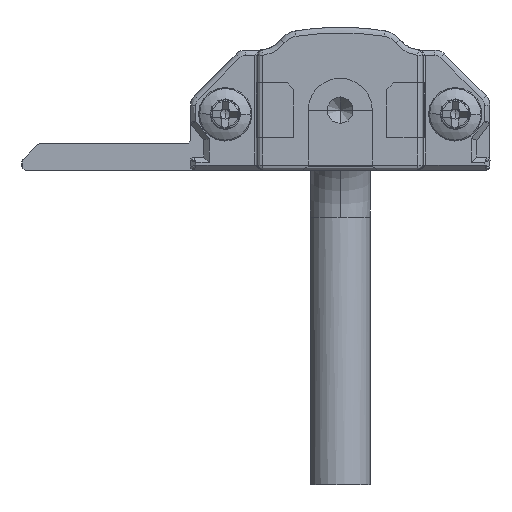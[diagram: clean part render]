
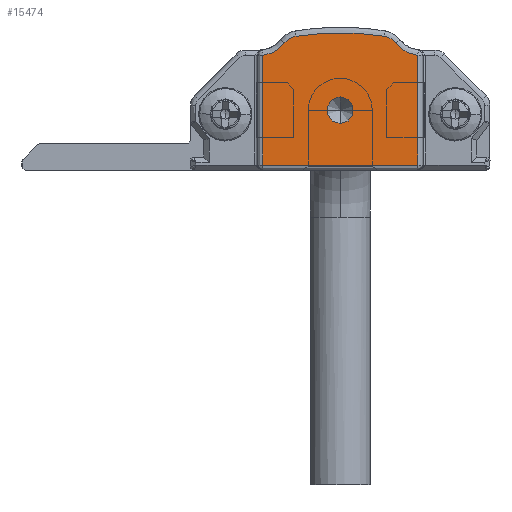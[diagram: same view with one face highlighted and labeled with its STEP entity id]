
A CAD part, front view. The second image highlights one B-rep face of the part: STEP entity #15474.
In plain terms, the highlighted planar face has unit normal (0, -1, 0).
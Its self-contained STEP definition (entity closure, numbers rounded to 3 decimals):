
#671 = CARTESIAN_POINT ( 'NONE',  ( 5.4, -15., 0.4 ) ) ;
#904 = AXIS2_PLACEMENT_3D ( 'NONE', #21666, #19775, #14298 ) ;
#1023 = CARTESIAN_POINT ( 'NONE',  ( 7.892, -15., 10.034 ) ) ;
#1240 = ORIENTED_EDGE ( 'NONE', *, *, #8423, .T. ) ;
#1302 = CARTESIAN_POINT ( 'NONE',  ( 5.162, -15., 11. ) ) ;
#1986 = DIRECTION ( 'NONE',  ( 0., 0., -1. ) ) ;
#3333 = VERTEX_POINT ( 'NONE', #29406 ) ;
#3866 = AXIS2_PLACEMENT_3D ( 'NONE', #17129, #24100, #21903 ) ;
#3964 = CIRCLE ( 'NONE', #19849, 1.3 ) ;
#4020 = DIRECTION ( 'NONE',  ( 0., 0., -1. ) ) ;
#4179 = DIRECTION ( 'NONE',  ( 1., 0., 0. ) ) ;
#4216 = DIRECTION ( 'NONE',  ( 0., 0., 1. ) ) ;
#4386 = DIRECTION ( 'NONE',  ( 0., -1., 0. ) ) ;
#5289 = AXIS2_PLACEMENT_3D ( 'NONE', #13988, #4386, #1986 ) ;
#5530 = EDGE_LOOP ( 'NONE', ( #16697, #29264 ) ) ;
#5891 = CIRCLE ( 'NONE', #3866, 1. ) ;
#6632 = CIRCLE ( 'NONE', #27974, 2.4 ) ;
#6764 = DIRECTION ( 'NONE',  ( 0., -1., 0. ) ) ;
#6928 = CARTESIAN_POINT ( 'NONE',  ( 8.1, -15., 8.75 ) ) ;
#7044 = VERTEX_POINT ( 'NONE', #10457 ) ;
#7438 = DIRECTION ( 'NONE',  ( 0., -1., 0. ) ) ;
#8221 = AXIS2_PLACEMENT_3D ( 'NONE', #12626, #12457, #24899 ) ;
#8423 = EDGE_CURVE ( 'NONE', #22738, #3333, #3964, .T. ) ;
#8481 = ORIENTED_EDGE ( 'NONE', *, *, #21307, .T. ) ;
#8854 = LINE ( 'NONE', #18173, #18577 ) ;
#10433 = VERTEX_POINT ( 'NONE', #26741 ) ;
#10457 = CARTESIAN_POINT ( 'NONE',  ( 15.332, -15., 9.541 ) ) ;
#10771 = EDGE_CURVE ( 'NONE', #10433, #17714, #8854, .T. ) ;
#10775 = EDGE_LOOP ( 'NONE', ( #19307, #15958, #24041, #26662, #1240, #28077, #14694, #8481 ) ) ;
#11020 = VERTEX_POINT ( 'NONE', #671 ) ;
#11438 = VECTOR ( 'NONE', #4179, 1000. ) ;
#11857 = CARTESIAN_POINT ( 'NONE',  ( 17., -15., 0.4 ) ) ;
#12063 = EDGE_CURVE ( 'NONE', #29003, #12157, #5891, .T. ) ;
#12157 = VERTEX_POINT ( 'NONE', #24745 ) ;
#12457 = DIRECTION ( 'NONE',  ( 0., -1., 0. ) ) ;
#12626 = CARTESIAN_POINT ( 'NONE',  ( 22.15, -15., 3.606 ) ) ;
#13792 = DIRECTION ( 'NONE',  ( 0., 1., 0. ) ) ;
#13988 = CARTESIAN_POINT ( 'NONE',  ( 11.2, -15., 4.5 ) ) ;
#14105 = VERTEX_POINT ( 'NONE', #24261 ) ;
#14298 = DIRECTION ( 'NONE',  ( 0., 0., -1. ) ) ;
#14684 = EDGE_CURVE ( 'NONE', #12157, #29003, #20642, .T. ) ;
#14694 = ORIENTED_EDGE ( 'NONE', *, *, #18235, .T. ) ;
#14854 = FACE_OUTER_BOUND ( 'NONE', #10775, .T. ) ;
#15474 = ADVANCED_FACE ( 'NONE', ( #14854, #19693 ), #29821, .T. ) ;
#15636 = EDGE_CURVE ( 'NONE', #7044, #18415, #20857, .T. ) ;
#15958 = ORIENTED_EDGE ( 'NONE', *, *, #18374, .T. ) ;
#16697 = ORIENTED_EDGE ( 'NONE', *, *, #14684, .F. ) ;
#17129 = CARTESIAN_POINT ( 'NONE',  ( 11.2, -15., 4.5 ) ) ;
#17421 = CIRCLE ( 'NONE', #25506, 20.676 ) ;
#17714 = VERTEX_POINT ( 'NONE', #30109 ) ;
#18173 = CARTESIAN_POINT ( 'NONE',  ( 17., -15., 8.612 ) ) ;
#18235 = EDGE_CURVE ( 'NONE', #14105, #11020, #26807, .T. ) ;
#18374 = EDGE_CURVE ( 'NONE', #17714, #7044, #6632, .T. ) ;
#18415 = VERTEX_POINT ( 'NONE', #30112 ) ;
#18536 = DIRECTION ( 'NONE',  ( 0., 0., -1. ) ) ;
#18577 = VECTOR ( 'NONE', #4216, 1000. ) ;
#19307 = ORIENTED_EDGE ( 'NONE', *, *, #10771, .T. ) ;
#19503 = EDGE_CURVE ( 'NONE', #18415, #22738, #17421, .T. ) ;
#19693 = FACE_BOUND ( 'NONE', #5530, .T. ) ;
#19775 = DIRECTION ( 'NONE',  ( 0., -1., 0. ) ) ;
#19849 = AXIS2_PLACEMENT_3D ( 'NONE', #6928, #6764, #26076 ) ;
#19971 = AXIS2_PLACEMENT_3D ( 'NONE', #1302, #13792, #4020 ) ;
#20470 = CARTESIAN_POINT ( 'NONE',  ( 17.238, -15., 11. ) ) ;
#20642 = CIRCLE ( 'NONE', #5289, 1. ) ;
#20857 = CIRCLE ( 'NONE', #904, 1.3 ) ;
#21307 = EDGE_CURVE ( 'NONE', #11020, #10433, #24143, .T. ) ;
#21666 = CARTESIAN_POINT ( 'NONE',  ( 14.3, -15., 8.75 ) ) ;
#21755 = CARTESIAN_POINT ( 'NONE',  ( 5.4, -15., 0.4 ) ) ;
#21903 = DIRECTION ( 'NONE',  ( 0., 0., -1. ) ) ;
#22467 = DIRECTION ( 'NONE',  ( 0., 0., -1. ) ) ;
#22738 = VERTEX_POINT ( 'NONE', #1023 ) ;
#24041 = ORIENTED_EDGE ( 'NONE', *, *, #15636, .T. ) ;
#24071 = VECTOR ( 'NONE', #31419, 1000. ) ;
#24100 = DIRECTION ( 'NONE',  ( 0., -1., 0. ) ) ;
#24143 = LINE ( 'NONE', #11857, #11438 ) ;
#24261 = CARTESIAN_POINT ( 'NONE',  ( 5.4, -15., 8.612 ) ) ;
#24745 = CARTESIAN_POINT ( 'NONE',  ( 11.2, -15., 3.5 ) ) ;
#24899 = DIRECTION ( 'NONE',  ( 0., 0., -1. ) ) ;
#25506 = AXIS2_PLACEMENT_3D ( 'NONE', #29431, #7438, #22467 ) ;
#25993 = DIRECTION ( 'NONE',  ( 0., 1., 0. ) ) ;
#26076 = DIRECTION ( 'NONE',  ( 0., 0., -1. ) ) ;
#26662 = ORIENTED_EDGE ( 'NONE', *, *, #19503, .T. ) ;
#26741 = CARTESIAN_POINT ( 'NONE',  ( 17., -15., 0.4 ) ) ;
#26807 = LINE ( 'NONE', #21755, #24071 ) ;
#27974 = AXIS2_PLACEMENT_3D ( 'NONE', #20470, #25993, #18536 ) ;
#28077 = ORIENTED_EDGE ( 'NONE', *, *, #30762, .T. ) ;
#29003 = VERTEX_POINT ( 'NONE', #31538 ) ;
#29264 = ORIENTED_EDGE ( 'NONE', *, *, #12063, .F. ) ;
#29406 = CARTESIAN_POINT ( 'NONE',  ( 7.068, -15., 9.541 ) ) ;
#29431 = CARTESIAN_POINT ( 'NONE',  ( 11.2, -15., -10.376 ) ) ;
#29545 = CIRCLE ( 'NONE', #19971, 2.4 ) ;
#29821 = PLANE ( 'NONE',  #8221 ) ;
#30109 = CARTESIAN_POINT ( 'NONE',  ( 17., -15., 8.612 ) ) ;
#30112 = CARTESIAN_POINT ( 'NONE',  ( 14.508, -15., 10.034 ) ) ;
#30762 = EDGE_CURVE ( 'NONE', #3333, #14105, #29545, .T. ) ;
#31419 = DIRECTION ( 'NONE',  ( 0., 0., -1. ) ) ;
#31538 = CARTESIAN_POINT ( 'NONE',  ( 11.2, -15., 5.5 ) ) ;
